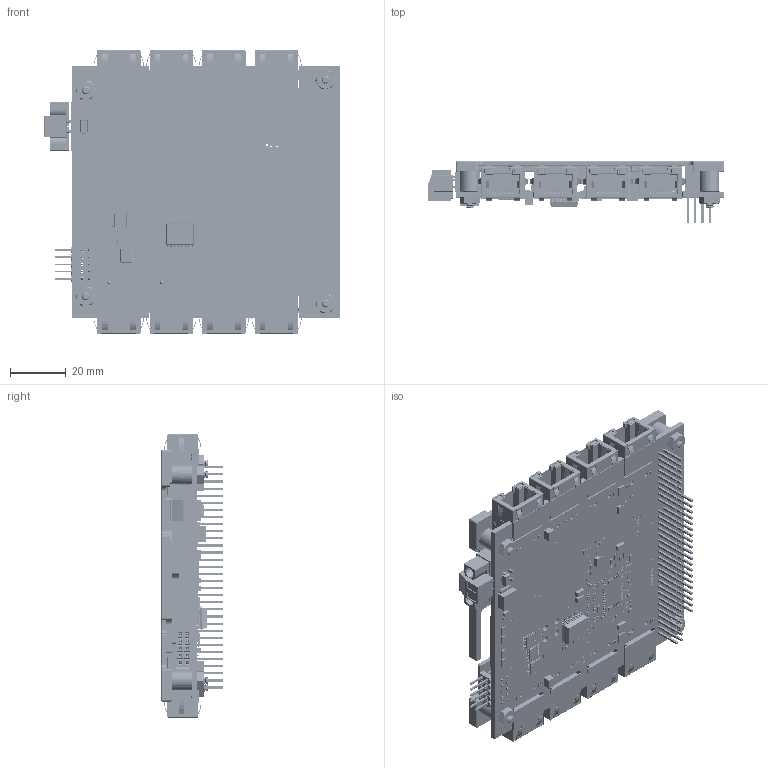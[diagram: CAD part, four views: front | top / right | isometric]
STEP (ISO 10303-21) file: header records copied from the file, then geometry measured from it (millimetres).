
FILE_DESCRIPTION (( 'STEP AP214' ), '1' );
FILE_NAME ('Assembly(0.01) Conduction Cooled XDG017.STEP', '2016-03-31T18:42:16', ( '' ), ( '' ), 'SwSTEP 2.0', 'SolidWorks 2015', '' );
FILE_SCHEMA (( 'AUTOMOTIVE_DESIGN' ));
Length unit declared in the file: inch
Products named in the file (8): 21464 Loctite 222 Threadlocker; GR45A-0H-50GY Thermal Pad, 1.00X1.00_50GR-ae; 92146A530 Lockwasher, #4, Split, SS_92146A530; 91841A005 Nut, 4-40, SS_91841A005; 91772A111 Screw, 4-40X.563 PPHMS, SS_91772A111; XDG005_3D_MODEL; CTIA-00575 REV 0.01  Heat Plate - Top, Conduction Cooled XDG; Assembly(0.01) Conduction Cooled XDG017
Assembly tree (15 placements, depth 2):
  21464 Loctite 222 Threadlocker
  Assembly(0.01) Conduction Cooled XDG017
    CTIA-00575 REV 0.01  Heat Plate - Top, Conduction Cooled XDG
    XDG005_3D_MODEL
    91772A111 Screw, 4-40X.563 PPHMS, SS_91772A111  x4
    91841A005 Nut, 4-40, SS_91841A005  x4
    92146A530 Lockwasher, #4, Split, SS_92146A530  x4
    GR45A-0H-50GY Thermal Pad, 1.00X1.00_50GR-ae
Bounding box: 105.67 x 22.08 x 101.25 mm (x, y, z)
Volume: 27865.7 mm3; surface area: 83313.3 mm2
Topology: 14 solids, 1168 shells, 8035 faces, 31030 edges, 23388 vertices
Faces by surface type: plane 6074, cylinder 1489, cone 260, bspline 188, torus 16, sphere 8
Entity records: 392161 total; most frequent: CARTESIAN_POINT 68219, DIRECTION 46838, ORIENTED_EDGE 40953, EDGE_CURVE 29218, VECTOR 24274, LINE 24274, VERTEX_POINT 22232, AXIS2_PLACEMENT_3D 11282
